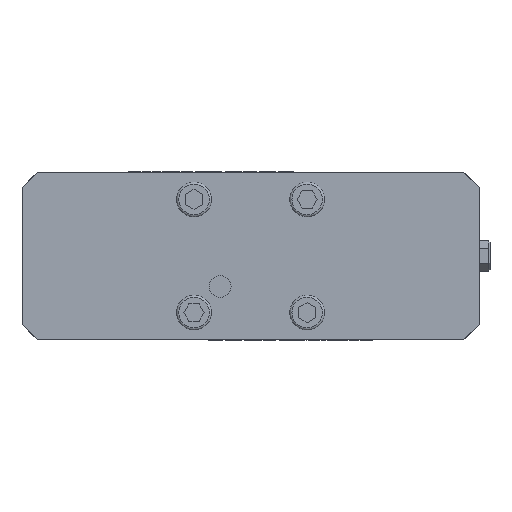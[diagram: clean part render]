
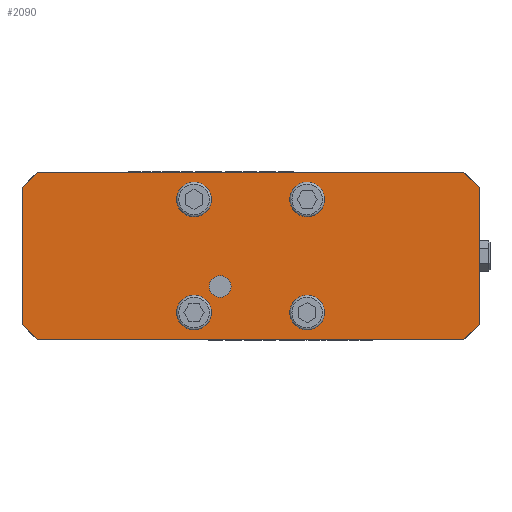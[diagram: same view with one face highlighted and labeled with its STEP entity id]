
A CAD part, front view. The second image highlights one B-rep face of the part: STEP entity #2090.
In plain terms, the highlighted planar face has unit normal (0, -1, 0).
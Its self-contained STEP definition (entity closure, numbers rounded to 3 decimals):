
#358 = VERTEX_POINT ( 'NONE', #14872 ) ;
#2090 = ADVANCED_FACE ( 'NONE', ( #20531, #24528, #13024, #27390, #45434, #41742 ), #9969, .F. ) ;
#2485 = CARTESIAN_POINT ( 'NONE',  ( 105., 0., -38.5 ) ) ;
#2544 = VERTEX_POINT ( 'NONE', #2729 ) ;
#2639 = ORIENTED_EDGE ( 'NONE', *, *, #17566, .F. ) ;
#2729 = CARTESIAN_POINT ( 'NONE',  ( 105., 0., 31.5 ) ) ;
#3379 = ORIENTED_EDGE ( 'NONE', *, *, #24143, .F. ) ;
#3572 = CARTESIAN_POINT ( 'NONE',  ( 105., 0., 31.5 ) ) ;
#3920 = LINE ( 'NONE', #36785, #17538 ) ;
#4303 = EDGE_CURVE ( 'NONE', #7622, #35600, #45159, .T. ) ;
#4367 = DIRECTION ( 'NONE',  ( 0., 0., -1. ) ) ;
#5570 = CARTESIAN_POINT ( 'NONE',  ( -98., 0., 38.5 ) ) ;
#5863 = DIRECTION ( 'NONE',  ( 1., 0., 0. ) ) ;
#6054 = ORIENTED_EDGE ( 'NONE', *, *, #16275, .F. ) ;
#6366 = ORIENTED_EDGE ( 'NONE', *, *, #45287, .T. ) ;
#6861 = CARTESIAN_POINT ( 'NONE',  ( 26., 0., -26. ) ) ;
#7622 = VERTEX_POINT ( 'NONE', #23186 ) ;
#7881 = CARTESIAN_POINT ( 'NONE',  ( -14., 0., -14. ) ) ;
#8235 = CIRCLE ( 'NONE', #34533, 5. ) ;
#8575 = AXIS2_PLACEMENT_3D ( 'NONE', #37080, #19651, #5863 ) ;
#9329 = CIRCLE ( 'NONE', #8575, 6. ) ;
#9629 = CARTESIAN_POINT ( 'NONE',  ( 105., 0., -31.5 ) ) ;
#9949 = AXIS2_PLACEMENT_3D ( 'NONE', #23183, #23419, #19917 ) ;
#9969 = PLANE ( 'NONE',  #26636 ) ;
#10534 = AXIS2_PLACEMENT_3D ( 'NONE', #6861, #39765, #28914 ) ;
#10662 = ORIENTED_EDGE ( 'NONE', *, *, #27737, .F. ) ;
#10697 = ORIENTED_EDGE ( 'NONE', *, *, #41794, .F. ) ;
#11496 = VERTEX_POINT ( 'NONE', #5570 ) ;
#12343 = CARTESIAN_POINT ( 'NONE',  ( 105., 0., -38.5 ) ) ;
#13005 = DIRECTION ( 'NONE',  ( 0.707, 0., 0.707 ) ) ;
#13024 = FACE_BOUND ( 'NONE', #22959, .T. ) ;
#13260 = DIRECTION ( 'NONE',  ( 0., 1., 0. ) ) ;
#14421 = CARTESIAN_POINT ( 'NONE',  ( 20., 0., 26. ) ) ;
#14872 = CARTESIAN_POINT ( 'NONE',  ( 26., 0., -20. ) ) ;
#16124 = CIRCLE ( 'NONE', #42417, 6. ) ;
#16275 = EDGE_CURVE ( 'NONE', #28124, #28124, #44443, .T. ) ;
#16446 = ORIENTED_EDGE ( 'NONE', *, *, #33391, .T. ) ;
#17367 = LINE ( 'NONE', #21573, #42418 ) ;
#17513 = VERTEX_POINT ( 'NONE', #14421 ) ;
#17538 = VECTOR ( 'NONE', #25985, 1000. ) ;
#17566 = EDGE_CURVE ( 'NONE', #7622, #36808, #21599, .T. ) ;
#17848 = ORIENTED_EDGE ( 'NONE', *, *, #25255, .T. ) ;
#17879 = EDGE_CURVE ( 'NONE', #17513, #17513, #16124, .T. ) ;
#18090 = CARTESIAN_POINT ( 'NONE',  ( 105., 0., -38.5 ) ) ;
#18894 = VERTEX_POINT ( 'NONE', #38383 ) ;
#19256 = ORIENTED_EDGE ( 'NONE', *, *, #21750, .F. ) ;
#19336 = LINE ( 'NONE', #12343, #39417 ) ;
#19651 = DIRECTION ( 'NONE',  ( 0., -1., 0. ) ) ;
#19917 = DIRECTION ( 'NONE',  ( 0., 0., -1. ) ) ;
#20339 = CARTESIAN_POINT ( 'NONE',  ( -98., 0., -38.5 ) ) ;
#20367 = EDGE_CURVE ( 'NONE', #20407, #36808, #43718, .T. ) ;
#20407 = VERTEX_POINT ( 'NONE', #28699 ) ;
#20531 = FACE_BOUND ( 'NONE', #42685, .T. ) ;
#20752 = CARTESIAN_POINT ( 'NONE',  ( 105., 0., 38.5 ) ) ;
#21556 = VECTOR ( 'NONE', #13005, 1000. ) ;
#21573 = CARTESIAN_POINT ( 'NONE',  ( -105., 0., -38.5 ) ) ;
#21599 = LINE ( 'NONE', #18090, #36344 ) ;
#21627 = LINE ( 'NONE', #20752, #27486 ) ;
#21710 = DIRECTION ( 'NONE',  ( -1., 0., 0. ) ) ;
#21737 = ORIENTED_EDGE ( 'NONE', *, *, #20367, .T. ) ;
#21750 = EDGE_CURVE ( 'NONE', #2544, #35600, #19336, .T. ) ;
#21834 = CARTESIAN_POINT ( 'NONE',  ( -98., 0., -38.5 ) ) ;
#22167 = DIRECTION ( 'NONE',  ( 0., -1., 0. ) ) ;
#22959 = EDGE_LOOP ( 'NONE', ( #10697 ) ) ;
#23183 = CARTESIAN_POINT ( 'NONE',  ( -26., 0., 26. ) ) ;
#23186 = CARTESIAN_POINT ( 'NONE',  ( 98., 0., -38.5 ) ) ;
#23419 = DIRECTION ( 'NONE',  ( 0., -1., 0. ) ) ;
#23433 = VERTEX_POINT ( 'NONE', #45778 ) ;
#23436 = VECTOR ( 'NONE', #40257, 1000. ) ;
#24143 = EDGE_CURVE ( 'NONE', #45933, #45933, #9329, .T. ) ;
#24528 = FACE_BOUND ( 'NONE', #39119, .T. ) ;
#24581 = CARTESIAN_POINT ( 'NONE',  ( -20., 0., -26. ) ) ;
#24792 = CARTESIAN_POINT ( 'NONE',  ( -26., 0., 20. ) ) ;
#24927 = DIRECTION ( 'NONE',  ( -0.707, 0., 0.707 ) ) ;
#25255 = EDGE_CURVE ( 'NONE', #11496, #23433, #3920, .T. ) ;
#25949 = ORIENTED_EDGE ( 'NONE', *, *, #17879, .F. ) ;
#25985 = DIRECTION ( 'NONE',  ( -0.707, 0., -0.707 ) ) ;
#26351 = EDGE_CURVE ( 'NONE', #2544, #18894, #46291, .T. ) ;
#26636 = AXIS2_PLACEMENT_3D ( 'NONE', #2485, #13260, #31151 ) ;
#26880 = VECTOR ( 'NONE', #24927, 1000. ) ;
#26952 = EDGE_LOOP ( 'NONE', ( #16446, #17848, #6366, #21737, #2639, #30213, #19256, #31191 ) ) ;
#27098 = CIRCLE ( 'NONE', #10534, 6. ) ;
#27390 = FACE_BOUND ( 'NONE', #44841, .T. ) ;
#27486 = VECTOR ( 'NONE', #35125, 1000. ) ;
#27737 = EDGE_CURVE ( 'NONE', #39864, #39864, #8235, .T. ) ;
#28124 = VERTEX_POINT ( 'NONE', #24792 ) ;
#28699 = CARTESIAN_POINT ( 'NONE',  ( -105., 0., -31.5 ) ) ;
#28914 = DIRECTION ( 'NONE',  ( 0., 0., 1. ) ) ;
#30213 = ORIENTED_EDGE ( 'NONE', *, *, #4303, .T. ) ;
#30378 = CARTESIAN_POINT ( 'NONE',  ( -14., 0., -19. ) ) ;
#31151 = DIRECTION ( 'NONE',  ( 0., 0., 1. ) ) ;
#31191 = ORIENTED_EDGE ( 'NONE', *, *, #26351, .T. ) ;
#32205 = DIRECTION ( 'NONE',  ( 0., 0., -1. ) ) ;
#33391 = EDGE_CURVE ( 'NONE', #18894, #11496, #21627, .T. ) ;
#34533 = AXIS2_PLACEMENT_3D ( 'NONE', #7881, #22167, #4367 ) ;
#35125 = DIRECTION ( 'NONE',  ( -1., 0., 0. ) ) ;
#35600 = VERTEX_POINT ( 'NONE', #9629 ) ;
#36344 = VECTOR ( 'NONE', #39085, 1000. ) ;
#36785 = CARTESIAN_POINT ( 'NONE',  ( -98., 0., 38.5 ) ) ;
#36808 = VERTEX_POINT ( 'NONE', #20339 ) ;
#37080 = CARTESIAN_POINT ( 'NONE',  ( -26., 0., -26. ) ) ;
#37991 = DIRECTION ( 'NONE',  ( 0., 0., -1. ) ) ;
#38214 = EDGE_LOOP ( 'NONE', ( #6054 ) ) ;
#38383 = CARTESIAN_POINT ( 'NONE',  ( 98., 0., 38.5 ) ) ;
#39085 = DIRECTION ( 'NONE',  ( -1., 0., 0. ) ) ;
#39119 = EDGE_LOOP ( 'NONE', ( #25949 ) ) ;
#39417 = VECTOR ( 'NONE', #37991, 1000. ) ;
#39765 = DIRECTION ( 'NONE',  ( 0., -1., 0. ) ) ;
#39864 = VERTEX_POINT ( 'NONE', #30378 ) ;
#40126 = CARTESIAN_POINT ( 'NONE',  ( 26., 0., 26. ) ) ;
#40257 = DIRECTION ( 'NONE',  ( 0.707, 0., -0.707 ) ) ;
#41742 = FACE_OUTER_BOUND ( 'NONE', #26952, .T. ) ;
#41794 = EDGE_CURVE ( 'NONE', #358, #358, #27098, .T. ) ;
#42417 = AXIS2_PLACEMENT_3D ( 'NONE', #40126, #43148, #21710 ) ;
#42418 = VECTOR ( 'NONE', #32205, 1000. ) ;
#42685 = EDGE_LOOP ( 'NONE', ( #10662 ) ) ;
#43148 = DIRECTION ( 'NONE',  ( 0., -1., 0. ) ) ;
#43718 = LINE ( 'NONE', #21834, #23436 ) ;
#44443 = CIRCLE ( 'NONE', #9949, 6. ) ;
#44841 = EDGE_LOOP ( 'NONE', ( #3379 ) ) ;
#44936 = CARTESIAN_POINT ( 'NONE',  ( 105., 0., -31.5 ) ) ;
#45159 = LINE ( 'NONE', #44936, #21556 ) ;
#45287 = EDGE_CURVE ( 'NONE', #23433, #20407, #17367, .T. ) ;
#45434 = FACE_BOUND ( 'NONE', #38214, .T. ) ;
#45778 = CARTESIAN_POINT ( 'NONE',  ( -105., 0., 31.5 ) ) ;
#45933 = VERTEX_POINT ( 'NONE', #24581 ) ;
#46291 = LINE ( 'NONE', #3572, #26880 ) ;
